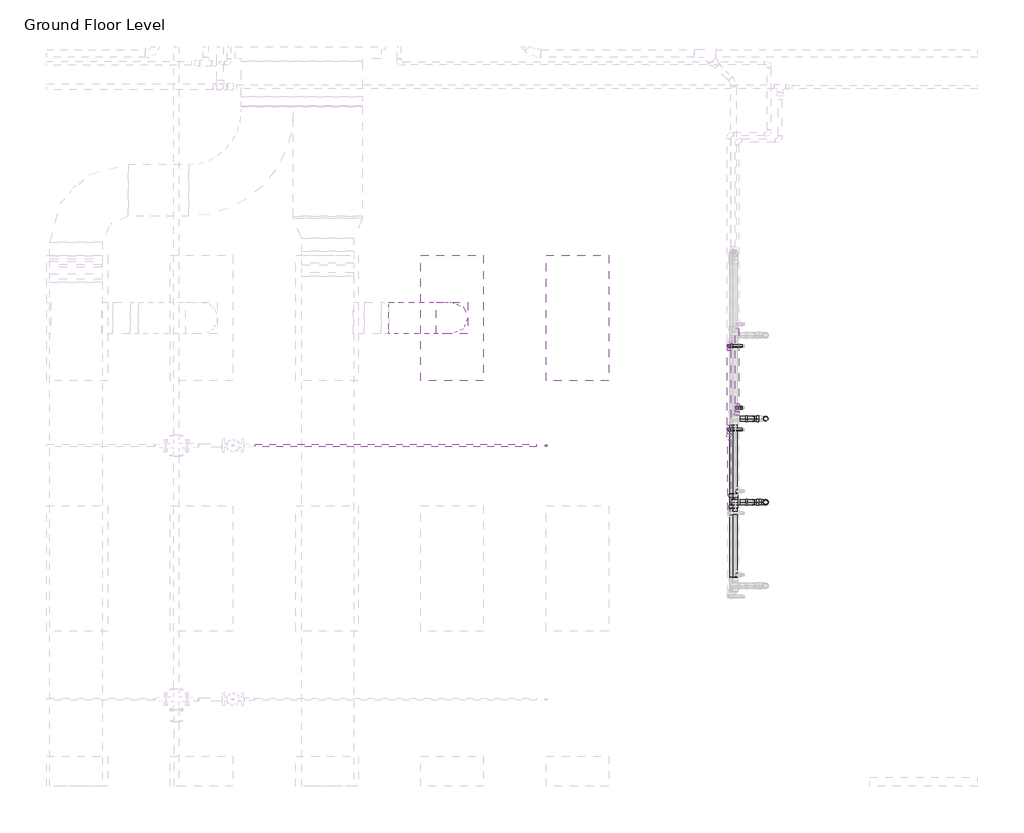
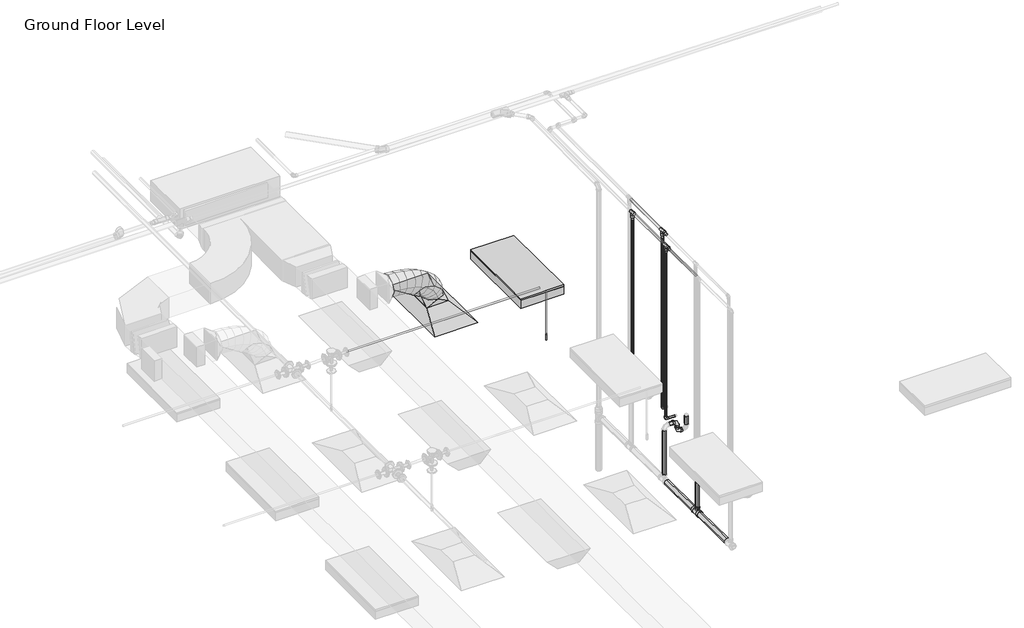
# One storey, part 49 of 66: 23 pipe segments, 18 pipe fittings, 1 air terminal, 1 duct fitting, 1 duct segment, 1 fire suppression terminal, 1 light fixture.
"""IFC4 building model written with IfcOpenShell, lengths in millimetres."""

from ifc_helpers import new_model, si_unit, point, frame, frame_2d, origin, place, context, project, spatial, circle_curve, ellipse_curve, trimmed, segment, composite_curve, outline, extrude, transform, mapped, element, save
from ifc_brep_helpers import plane_surface, cylinder_surface, advanced_brep
from components import m_return_diffuser_1200x600_1200_x_600_face_300_x_300_d1983ef6, m_rectangular_to_round_transition_angle_45_degree_641efff0, m_sprinkler_dry_pendent_hosted_15_mm_dry_pendent_9bda8e11, m_troffer_light_parabolic_rectangular1_0600x1200mm_4_lamp_86473d4a, m_bend_pvc_sch_40_dwv_standard_738aab8b, m_tee_reducing_sanitary_pvc_sch_40_dwv_standard_21d2848c, standard_b266ab3f, standard_72b35c3b, standard_e954f56a, standard_e5aa6446

model = new_model("IFC4")

# Units and contexts
model_context = context("Model", 3, world=origin())
ifc_project = project(units=[si_unit("LENGTHUNIT", "METRE", prefix="MILLI")], contexts=[model_context])

# Site, building, storey
site = spatial("IfcSite", under=ifc_project)
building = spatial("IfcBuilding", under=site)
storey = spatial("IfcBuildingStorey", under=building, Name="Ground Floor Level", Elevation=900.0)

# Air terminal
placement = place(None, origin())
m_return_diffuser_1200x600_1200_x_600_face_300_x_300_shape = m_return_diffuser_1200x600_1200_x_600_face_300_x_300_d1983ef6(model_context)
element("IfcAirTerminal", 1, ObjectType="M_Supply Diffuser 1200x600 : 1200 x 600 Face 300 x 300 Connection", at=placement, inside=storey, context=model_context, shape_type="MappedRepresentation", body=[
    mapped(m_return_diffuser_1200x600_1200_x_600_face_300_x_300_shape, transform((-3337.2327605, 11235.2153534, 3650.0), x_axis=(0.0, 1.0, 0.0), y_axis=(-1.0, 0.0, 0.0), z_axis=(0.0, 0.0, 1.0))),
])

# Duct fitting
m_rectangular_to_round_transition_angle_45_degree_shape = m_rectangular_to_round_transition_angle_45_degree_641efff0(model_context)
element("IfcDuctFitting", 2, ObjectType="M_Rectangular to Round Transition - Angle : 45 Degree", at=placement, inside=storey, context=model_context, shape_type="MappedRepresentation", body=[
    mapped(m_rectangular_to_round_transition_angle_45_degree_shape, transform((-3337.2327605, 11235.2153534, 3751.6), x_axis=(0.0, 0.0, 1.0), y_axis=(-1.0, 0.0, 0.0), z_axis=(0.0, -1.0, 0.0))),
])

# Duct segment
element("IfcDuctSegment", 3, ObjectType="Flex - Round", at=placement, inside=storey, context=model_context, shape_type="AdvancedBrep", body=[
    advanced_brep(
    [(-3187.2327605, 11235.2153534, 3826.6), (-3337.2327605, 11085.2153534, 3826.6), (-3487.2327605, 11235.2153534, 3826.6), (-3337.2327605, 11385.2153534, 3826.6), (-3187.2327605, 11235.2153534, 3882.126257), (-3337.2327605, 11085.2153534, 3857.3050511), (-3487.2327605, 11235.2153534, 3832.4838453), (-3337.2327605, 11385.2153534, 3857.3050511), (-3218.4262882, 11235.2153534, 3973.8000574), (-3353.8942835, 11085.2153534, 3906.2711428), (-3489.3622789, 11235.2153534, 3838.7422282), (-3353.8942835, 11385.2153534, 3906.2711428), (-3288.1608022, 11235.2153534, 4076.4131518), (-3399.7726231, 11085.2153534, 3973.7803017), (-3511.3844439, 11235.2153534, 3871.1474515), (-3399.7726231, 11385.2153534, 3973.7803017), (-3386.0893727, 11235.2153534, 4155.7119505), (-3468.7084348, 11085.2153534, 4029.6018768), (-3551.3274968, 11235.2153534, 3903.4918031), (-3468.7084348, 11385.2153534, 4029.6018768), (-3494.8345319, 11235.2153534, 4212.2274343), (-3554.5423743, 11085.2153534, 4074.2102682), (-3614.2502168, 11235.2153534, 3936.193102), (-3554.5423743, 11385.2153534, 4074.2102682), (-3609.1269227, 11235.2153534, 4252.3116148), (-3651.1150974, 11085.2153534, 4108.0798761), (-3693.1032721, 11235.2153534, 3963.8481373), (-3651.1150974, 11385.2153534, 4108.0798761), (-3724.8585456, 11235.2153534, 4279.3191535), (-3752.2672597, 11085.2153534, 4131.6851006), (-3779.6759737, 11235.2153534, 3984.0510476), (-3752.2672597, 11385.2153534, 4131.6851006), (-3837.5181627, 11235.2153534, 4294.9502122), (-3851.8395168, 11085.2153534, 4145.5003418), (-3866.1608709, 11235.2153534, 3996.0504715), (-3851.8395168, 11385.2153534, 4145.5003418), (-3932.3402653, 11235.2153534, 4300.0), (-3936.3315914, 11085.2153534, 4150.0), (-3940.3229175, 11235.2153534, 4000.0), (-3936.3315914, 11385.2153534, 4150.0), (-3943.6725245, 11235.2153534, 4300.0), (-3943.6725245, 11385.2153534, 4150.0), (-3943.6725245, 11235.2153534, 4000.0), (-3943.6725245, 11085.2153534, 4150.0)],
    [
        (0, 1, circle_curve(frame((-3337.2327605, 11235.2153534, 3826.6), z_axis=(0.0, 0.0, -1.0), x_axis=(1.0, 0.0, 0.0)), 150.0)),
        (1, 2, circle_curve(frame((-3337.2327605, 11235.2153534, 3826.6), z_axis=(0.0, 0.0, -1.0), x_axis=(1.0, 0.0, 0.0)), 150.0)),
        (2, 3, circle_curve(frame((-3337.2327605, 11235.2153534, 3826.6), z_axis=(0.0, 0.0, -1.0), x_axis=(1.0, 0.0, 0.0)), 150.0)),
        (3, 0, circle_curve(frame((-3337.2327605, 11235.2153534, 3826.6), z_axis=(0.0, 0.0, -1.0), x_axis=(1.0, 0.0, 0.0)), 150.0)),
        (0, 4),
        (4, 5, ellipse_curve(frame((-3337.2327605, 11235.2153534, 3857.3050511), z_axis=(0.16325469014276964, 0.0, -0.9865839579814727), x_axis=(-0.9865839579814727, 0.0, -0.16325469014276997)), 152.039772, 150.0)),
        (5, 1),
        (5, 6, ellipse_curve(frame((-3337.2327605, 11235.2153534, 3857.3050511), z_axis=(0.16325469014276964, 0.0, -0.9865839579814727), x_axis=(-0.9865839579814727, 0.0, -0.16325469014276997)), 152.039772, 150.0)),
        (6, 2),
        (6, 7, ellipse_curve(frame((-3337.2327605, 11235.2153534, 3857.3050511), z_axis=(0.16325469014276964, 0.0, -0.9865839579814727), x_axis=(-0.9865839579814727, 0.0, -0.16325469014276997)), 152.039772, 150.0)),
        (7, 3),
        (7, 4, ellipse_curve(frame((-3337.2327605, 11235.2153534, 3857.3050511), z_axis=(0.16325469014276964, 0.0, -0.9865839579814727), x_axis=(-0.9865839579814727, 0.0, -0.16325469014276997)), 152.039772, 150.0)),
        (4, 8),
        (8, 9, ellipse_curve(frame((-3353.8942835, 11235.2153534, 3906.2711428), z_axis=(0.4461293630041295, 0.0, -0.8949684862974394), x_axis=(-0.8949684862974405, 0.0, -0.4461293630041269)), 151.3662184, 150.0)),
        (9, 5),
        (9, 10, ellipse_curve(frame((-3353.8942835, 11235.2153534, 3906.2711428), z_axis=(0.4461293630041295, 0.0, -0.8949684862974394), x_axis=(-0.8949684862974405, 0.0, -0.4461293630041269)), 151.3662184, 150.0)),
        (10, 6),
        (10, 11, ellipse_curve(frame((-3353.8942835, 11235.2153534, 3906.2711428), z_axis=(0.4461293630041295, 0.0, -0.8949684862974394), x_axis=(-0.8949684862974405, 0.0, -0.4461293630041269)), 151.3662184, 150.0)),
        (11, 7),
        (11, 8, ellipse_curve(frame((-3353.8942835, 11235.2153534, 3906.2711428), z_axis=(0.4461293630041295, 0.0, -0.8949684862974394), x_axis=(-0.8949684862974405, 0.0, -0.4461293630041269)), 151.3662184, 150.0)),
        (8, 12),
        (12, 13, ellipse_curve(frame((-3399.7726231, 11235.2153534, 3973.7803017), z_axis=(0.6768778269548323, 0.0, -0.7360953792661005), x_axis=(-0.7360953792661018, 0.0, -0.676877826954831)), 151.6268462, 150.0)),
        (13, 9),
        (13, 14, ellipse_curve(frame((-3399.7726231, 11235.2153534, 3973.7803017), z_axis=(0.6768778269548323, 0.0, -0.7360953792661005), x_axis=(-0.7360953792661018, 0.0, -0.676877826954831)), 151.6268462, 150.0)),
        (14, 10),
        (14, 15, ellipse_curve(frame((-3399.7726231, 11235.2153534, 3973.7803017), z_axis=(0.6768778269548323, 0.0, -0.7360953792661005), x_axis=(-0.7360953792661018, 0.0, -0.676877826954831)), 151.6268462, 150.0)),
        (15, 11),
        (15, 12, ellipse_curve(frame((-3399.7726231, 11235.2153534, 3973.7803017), z_axis=(0.6768778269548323, 0.0, -0.7360953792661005), x_axis=(-0.7360953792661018, 0.0, -0.676877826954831)), 151.6268462, 150.0)),
        (12, 16),
        (16, 17, ellipse_curve(frame((-3468.7084348, 11235.2153534, 4029.6018768), z_axis=(0.8364756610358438, 0.0, -0.5480040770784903), x_axis=(-0.5480040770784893, 0.0, -0.8364756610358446)), 150.7635901, 150.0)),
        (17, 13),
        (17, 18, ellipse_curve(frame((-3468.7084348, 11235.2153534, 4029.6018768), z_axis=(0.8364756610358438, 0.0, -0.5480040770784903), x_axis=(-0.5480040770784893, 0.0, -0.8364756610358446)), 150.7635901, 150.0)),
        (18, 14),
        (18, 19, ellipse_curve(frame((-3468.7084348, 11235.2153534, 4029.6018768), z_axis=(0.8364756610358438, 0.0, -0.5480040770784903), x_axis=(-0.5480040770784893, 0.0, -0.8364756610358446)), 150.7635901, 150.0)),
        (19, 15),
        (19, 16, ellipse_curve(frame((-3468.7084348, 11235.2153534, 4029.6018768), z_axis=(0.8364756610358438, 0.0, -0.5480040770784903), x_axis=(-0.5480040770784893, 0.0, -0.8364756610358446)), 150.7635901, 150.0)),
        (16, 20),
        (20, 21, ellipse_curve(frame((-3554.5423743, 11235.2153534, 4074.2102682), z_axis=(0.9177970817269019, 0.0, -0.3970497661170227), x_axis=(-0.39704976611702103, 0.0, -0.9177970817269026)), 150.3787372, 150.0)),
        (21, 17),
        (21, 22, ellipse_curve(frame((-3554.5423743, 11235.2153534, 4074.2102682), z_axis=(0.9177970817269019, 0.0, -0.3970497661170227), x_axis=(-0.39704976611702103, 0.0, -0.9177970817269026)), 150.3787372, 150.0)),
        (22, 18),
        (22, 23, ellipse_curve(frame((-3554.5423743, 11235.2153534, 4074.2102682), z_axis=(0.9177970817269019, 0.0, -0.3970497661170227), x_axis=(-0.39704976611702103, 0.0, -0.9177970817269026)), 150.3787372, 150.0)),
        (23, 19),
        (23, 20, ellipse_curve(frame((-3554.5423743, 11235.2153534, 4074.2102682), z_axis=(0.9177970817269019, 0.0, -0.3970497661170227), x_axis=(-0.39704976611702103, 0.0, -0.9177970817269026)), 150.3787372, 150.0)),
        (20, 24),
        (24, 25, ellipse_curve(frame((-3651.1150974, 11235.2153534, 4108.0798761), z_axis=(0.9601419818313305, 0.0, -0.2795127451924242), x_axis=(-0.2795127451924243, 0.0, -0.9601419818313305)), 150.2191774, 150.0)),
        (25, 21),
        (25, 26, ellipse_curve(frame((-3651.1150974, 11235.2153534, 4108.0798761), z_axis=(0.9601419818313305, 0.0, -0.2795127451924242), x_axis=(-0.2795127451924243, 0.0, -0.9601419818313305)), 150.2191774, 150.0)),
        (26, 22),
        (26, 27, ellipse_curve(frame((-3651.1150974, 11235.2153534, 4108.0798761), z_axis=(0.9601419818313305, 0.0, -0.2795127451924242), x_axis=(-0.2795127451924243, 0.0, -0.9601419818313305)), 150.2191774, 150.0)),
        (27, 23),
        (27, 24, ellipse_curve(frame((-3651.1150974, 11235.2153534, 4108.0798761), z_axis=(0.9601419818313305, 0.0, -0.2795127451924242), x_axis=(-0.2795127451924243, 0.0, -0.9601419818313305)), 150.2191774, 150.0)),
        (24, 28),
        (28, 29, ellipse_curve(frame((-3752.2672597, 11235.2153534, 4131.6851006), z_axis=(0.9831995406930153, 0.0, -0.18253400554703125), x_axis=(-0.18253400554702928, 0.0, -0.9831995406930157)), 150.1567554, 150.0)),
        (29, 25),
        (29, 30, ellipse_curve(frame((-3752.2672597, 11235.2153534, 4131.6851006), z_axis=(0.9831995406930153, 0.0, -0.18253400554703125), x_axis=(-0.18253400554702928, 0.0, -0.9831995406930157)), 150.1567554, 150.0)),
        (30, 26),
        (30, 31, ellipse_curve(frame((-3752.2672597, 11235.2153534, 4131.6851006), z_axis=(0.9831995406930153, 0.0, -0.18253400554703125), x_axis=(-0.18253400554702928, 0.0, -0.9831995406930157)), 150.1567554, 150.0)),
        (31, 27),
        (31, 28, ellipse_curve(frame((-3752.2672597, 11235.2153534, 4131.6851006), z_axis=(0.9831995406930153, 0.0, -0.18253400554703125), x_axis=(-0.18253400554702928, 0.0, -0.9831995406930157)), 150.1567554, 150.0)),
        (28, 32),
        (32, 33, ellipse_curve(frame((-3851.8395168, 11235.2153534, 4145.5003418), z_axis=(0.9954399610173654, 0.0, -0.09539016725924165), x_axis=(-0.09539016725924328, 0.0, -0.9954399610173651)), 150.1344895, 150.0)),
        (33, 29),
        (33, 34, ellipse_curve(frame((-3851.8395168, 11235.2153534, 4145.5003418), z_axis=(0.9954399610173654, 0.0, -0.09539016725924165), x_axis=(-0.09539016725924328, 0.0, -0.9954399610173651)), 150.1344895, 150.0)),
        (34, 30),
        (34, 35, ellipse_curve(frame((-3851.8395168, 11235.2153534, 4145.5003418), z_axis=(0.9954399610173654, 0.0, -0.09539016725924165), x_axis=(-0.09539016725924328, 0.0, -0.9954399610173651)), 150.1344895, 150.0)),
        (35, 31),
        (35, 32, ellipse_curve(frame((-3851.8395168, 11235.2153534, 4145.5003418), z_axis=(0.9954399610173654, 0.0, -0.09539016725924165), x_axis=(-0.09539016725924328, 0.0, -0.9954399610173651)), 150.1344895, 150.0)),
        (32, 36),
        (36, 37, ellipse_curve(frame((-3936.3315914, 11235.2153534, 4150.0), z_axis=(0.9996461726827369, 0.0, -0.026599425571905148), x_axis=(-0.026599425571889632, 0.0, -0.9996461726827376)), 150.0530929, 150.0)),
        (37, 33),
        (37, 38, ellipse_curve(frame((-3936.3315914, 11235.2153534, 4150.0), z_axis=(0.9996461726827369, 0.0, -0.026599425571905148), x_axis=(-0.026599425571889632, 0.0, -0.9996461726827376)), 150.0530929, 150.0)),
        (38, 34),
        (38, 39, ellipse_curve(frame((-3936.3315914, 11235.2153534, 4150.0), z_axis=(0.9996461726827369, 0.0, -0.026599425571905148), x_axis=(-0.026599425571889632, 0.0, -0.9996461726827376)), 150.0530929, 150.0)),
        (39, 35),
        (39, 36, ellipse_curve(frame((-3936.3315914, 11235.2153534, 4150.0), z_axis=(0.9996461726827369, 0.0, -0.026599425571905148), x_axis=(-0.026599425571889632, 0.0, -0.9996461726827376)), 150.0530929, 150.0)),
        (40, 41, circle_curve(frame((-3943.6725245, 11235.2153534, 4150.0), z_axis=(-1.0, 0.0, 0.0), x_axis=(0.0, 0.0, 1.0)), 150.0)),
        (41, 42, circle_curve(frame((-3943.6725245, 11235.2153534, 4150.0), z_axis=(-1.0, 0.0, 0.0), x_axis=(0.0, 0.0, 1.0)), 150.0)),
        (42, 43, circle_curve(frame((-3943.6725245, 11235.2153534, 4150.0), z_axis=(-1.0, 0.0, 0.0), x_axis=(0.0, 0.0, 1.0)), 150.0)),
        (43, 40, circle_curve(frame((-3943.6725245, 11235.2153534, 4150.0), z_axis=(-1.0, 0.0, 0.0), x_axis=(0.0, 0.0, 1.0)), 150.0)),
        (36, 40),
        (43, 37),
        (42, 38),
        (41, 39),
    ],
    [
        plane_surface(frame((-3337.2327605, 11085.2153534, 3826.6), z_axis=(0.0, 0.0, -1.0), x_axis=(1.0, 0.0, 0.0))),
        cylinder_surface(frame((-3337.2327605, 11235.2153534, 3826.6), z_axis=(0.0, 0.0, -1.0), x_axis=(1.0, 0.0, 0.0)), 150.0),
        cylinder_surface(frame((-3337.2327605, 11235.2153534, 3857.3050511), z_axis=(0.3221289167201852, 0.0, -0.9466958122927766), x_axis=(0.9466958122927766, 0.0, 0.3221289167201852)), 150.0),
        cylinder_surface(frame((-3353.8942835, 11235.2153534, 3906.2711428), z_axis=(0.5620763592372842, 0.0, -0.827085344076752), x_axis=(0.827085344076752, 0.0, 0.5620763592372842)), 150.0),
        cylinder_surface(frame((-3399.7726231, 11235.2153534, 3973.7803017), z_axis=(0.7771544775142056, 0.0, -0.6293098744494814), x_axis=(0.6293098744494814, 0.0, 0.7771544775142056)), 150.0),
        cylinder_surface(frame((-3468.7084348, 11235.2153534, 4029.6018768), z_axis=(0.8873236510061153, 0.0, -0.4611471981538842), x_axis=(0.4611471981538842, 0.0, 0.8873236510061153)), 150.0),
        cylinder_surface(frame((-3554.5423743, 11235.2153534, 4074.2102682), z_axis=(0.9436474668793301, 0.0, -0.3309523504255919), x_axis=(0.3309523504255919, 0.0, 0.9436474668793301)), 150.0),
        cylinder_surface(frame((-3651.1150974, 11235.2153534, 4108.0798761), z_axis=(0.9738347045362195, 0.0, -0.22725749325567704), x_axis=(0.22725749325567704, 0.0, 0.9738347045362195)), 150.0),
        cylinder_surface(frame((-3752.2672597, 11235.2153534, 4131.6851006), z_axis=(0.9905115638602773, 0.0, -0.1374294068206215), x_axis=(0.1374294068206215, 0.0, 0.9905115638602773)), 150.0),
        cylinder_surface(frame((-3851.8395168, 11235.2153534, 4145.5003418), z_axis=(0.9985849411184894, 0.0, -0.05318002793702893), x_axis=(0.05318002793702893, 0.0, 0.9985849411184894)), 150.0),
        plane_surface(frame((-3943.6725245, 11235.2153534, 4000.0), z_axis=(-1.0, 0.0, 0.0), x_axis=(0.0, -1.0, 0.0))),
        cylinder_surface(frame((-3936.3315914, 11235.2153534, 4150.0), z_axis=(1.0, 0.0, 0.0), x_axis=(0.0, 0.0, 1.0)), 150.0),
    ],
    [
        (0, [[1, 2, 3, 4]]),
        (1, [[-1, 5, 6, 7]]),
        (1, [[-2, -7, 8, 9]]),
        (1, [[-3, -9, 10, 11]]),
        (1, [[-4, -11, 12, -5]]),
        (2, [[-6, 13, 14, 15]]),
        (2, [[-8, -15, 16, 17]]),
        (2, [[-10, -17, 18, 19]]),
        (2, [[-12, -19, 20, -13]]),
        (3, [[-14, 21, 22, 23]]),
        (3, [[-16, -23, 24, 25]]),
        (3, [[-18, -25, 26, 27]]),
        (3, [[-20, -27, 28, -21]]),
        (4, [[-22, 29, 30, 31]]),
        (4, [[-24, -31, 32, 33]]),
        (4, [[-26, -33, 34, 35]]),
        (4, [[-28, -35, 36, -29]]),
        (5, [[-30, 37, 38, 39]]),
        (5, [[-32, -39, 40, 41]]),
        (5, [[-34, -41, 42, 43]]),
        (5, [[-36, -43, 44, -37]]),
        (6, [[-38, 45, 46, 47]]),
        (6, [[-40, -47, 48, 49]]),
        (6, [[-42, -49, 50, 51]]),
        (6, [[-44, -51, 52, -45]]),
        (7, [[-46, 53, 54, 55]]),
        (7, [[-48, -55, 56, 57]]),
        (7, [[-50, -57, 58, 59]]),
        (7, [[-52, -59, 60, -53]]),
        (8, [[-54, 61, 62, 63]]),
        (8, [[-56, -63, 64, 65]]),
        (8, [[-58, -65, 66, 67]]),
        (8, [[-60, -67, 68, -61]]),
        (9, [[-62, 69, 70, 71]]),
        (9, [[-64, -71, 72, 73]]),
        (9, [[-66, -73, 74, 75]]),
        (9, [[-68, -75, 76, -69]]),
        (10, [[77, 78, 79, 80]]),
        (11, [[-70, 81, -80, 82]]),
        (11, [[-72, -82, -79, 83]]),
        (11, [[-74, -83, -78, 84]]),
        (11, [[-76, -84, -77, -81]]),
    ],
),
])

# Fire suppression terminal
m_sprinkler_dry_pendent_hosted_15_mm_dry_pendent_shape = m_sprinkler_dry_pendent_hosted_15_mm_dry_pendent_9bda8e11(model_context)
element("IfcFireSuppressionTerminal", 4, ObjectType="M_Sprinkler - Dry - Pendent - Hosted : 15 mm Dry Pendent", at=placement, inside=storey, context=model_context, shape_type="MappedRepresentation", body=[
    mapped(m_sprinkler_dry_pendent_hosted_15_mm_dry_pendent_shape, transform((-2437.2327605, 10013.008259, 3650.0), x_axis=(1.0, 0.0, 0.0), y_axis=(0.0, -1.0, 0.0), z_axis=(0.0, 0.0, -1.0))),
])

# Light fixture
m_troffer_light_parabolic_rectangular1_0600x1200mm_4_lamp_shape = m_troffer_light_parabolic_rectangular1_0600x1200mm_4_lamp_86473d4a(model_context)
element("IfcLightFixture", 5, ObjectType="M_Troffer Light - Parabolic Rectangular1 : 0600x1200mm(4 Lamp) - 277V 2", at=placement, inside=storey, context=model_context, shape_type="MappedRepresentation", body=[
    mapped(m_troffer_light_parabolic_rectangular1_0600x1200mm_4_lamp_shape, transform((-2196.6986926, 11253.918855, 3650.0), x_axis=(0.0, 1.0, 0.0), y_axis=(-1.0, 0.0, 0.0), z_axis=(0.0, 0.0, 1.0))),
])

# Pipe fittings
m_bend_pvc_sch_40_dwv_standard_shape = m_bend_pvc_sch_40_dwv_standard_738aab8b(model_context)
element("IfcPipeFitting", 6, ObjectType="M_Bend - PVC - Sch 40 - DWV : Standard", at=placement, inside=storey, context=model_context, shape_type="MappedRepresentation", body=[
    mapped(m_bend_pvc_sch_40_dwv_standard_shape, transform((-463.6645494, 9471.1979139, 1370.0), x_axis=(-1.0, 0.0, 0.0), y_axis=(0.0, 0.0, 1.0), z_axis=(0.0, 1.0, 0.0))),
])
element("IfcPipeFitting", 7, ObjectType="M_Bend - PVC - Sch 40 - DWV : Standard", at=placement, inside=storey, context=model_context, shape_type="MappedRepresentation", body=[
    mapped(m_bend_pvc_sch_40_dwv_standard_shape, transform((-463.6645494, 9471.1979139, 1510.0), x_axis=(0.0, 0.0, 1.0), y_axis=(-1.0, 0.0, 0.0), z_axis=(0.0, -1.0, 0.0))),
])
element("IfcPipeFitting", 8, ObjectType="M_Bend - PVC - Sch 40 - DWV : Standard", at=placement, inside=storey, context=model_context, shape_type="MappedRepresentation", body=[
    mapped(m_bend_pvc_sch_40_dwv_standard_shape, transform((-463.6645494, 10271.1979139, 1370.0), x_axis=(-1.0, 0.0, 0.0), y_axis=(0.0, 0.0, 1.0), z_axis=(0.0, 1.0, 0.0))),
])
element("IfcPipeFitting", 9, ObjectType="M_Bend - PVC - Sch 40 - DWV : Standard", at=placement, inside=storey, context=model_context, shape_type="MappedRepresentation", body=[
    mapped(m_bend_pvc_sch_40_dwv_standard_shape, transform((-463.6645494, 10271.1979139, 1510.0), x_axis=(0.0, 0.0, 1.0), y_axis=(-1.0, 0.0, 0.0), z_axis=(0.0, -1.0, 0.0))),
])
element("IfcPipeFitting", 10, ObjectType="M_Bend - PVC - Sch 40 - DWV : Standard", at=placement, inside=storey, context=model_context, shape_type="MappedRepresentation", body=[
    mapped(m_bend_pvc_sch_40_dwv_standard_shape, transform((-333.6645494, 9471.1979139, 1370.0), x_axis=(1.0, 0.0, 0.0), y_axis=(0.0, 0.0, 1.0), z_axis=(0.0, -1.0, 0.0))),
])
element("IfcPipeFitting", 11, ObjectType="M_Bend - PVC - Sch 40 - DWV : Standard", at=placement, inside=storey, context=model_context, shape_type="MappedRepresentation", body=[
    mapped(m_bend_pvc_sch_40_dwv_standard_shape, transform((-642.2301761, 9471.1979139, 1510.0), x_axis=(-1.0, 0.0, 0.0), y_axis=(0.0, 0.0, -1.0), z_axis=(0.0, -1.0, 0.0))),
])
m_tee_reducing_sanitary_pvc_sch_40_dwv_standard_shape = m_tee_reducing_sanitary_pvc_sch_40_dwv_standard_21d2848c(model_context)
element("IfcPipeFitting", 12, ObjectType="M_Tee Reducing Sanitary - PVC - Sch 40 - DWV : Standard", at=placement, inside=storey, context=model_context, shape_type="MappedRepresentation", body=[
    mapped(m_tee_reducing_sanitary_pvc_sch_40_dwv_standard_shape, transform((-642.2301761, 9471.1979139, 719.098886), x_axis=(0.0, -0.9999500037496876, 0.009999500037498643), y_axis=(0.0, -0.009999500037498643, -0.9999500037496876), z_axis=(1.0, 0.0, 0.0))),
])
standard_shape = standard_b266ab3f(model_context)
element("IfcPipeFitting", 13, ObjectType="M_Elbow - CPVC - Sch 40 : Standard", at=placement, inside=storey, context=model_context, shape_type="MappedRepresentation", body=[
    mapped(standard_shape, transform((-607.2327605, 10375.5128345, 1690.0), x_axis=(0.0, 0.0, -1.0), y_axis=(1.0, 0.0, 0.0), z_axis=(0.0, -1.0, 0.0))),
])
element("IfcPipeFitting", 14, ObjectType="M_Elbow - CPVC - Sch 40 : Standard", at=placement, inside=storey, context=model_context, shape_type="MappedRepresentation", body=[
    mapped(standard_shape, transform((-684.0671674, 10166.8829933, 1690.0), x_axis=(-1.0, 0.0, 0.0), y_axis=(0.0, 0.0, 1.0), z_axis=(0.0, 1.0, 0.0))),
])
element("IfcPipeFitting", 15, ObjectType="M_Elbow - CPVC - Sch 40 : Standard", at=placement, inside=storey, context=model_context, shape_type="MappedRepresentation", body=[
    mapped(standard_shape, transform((-684.0671674, 10966.8829933, 1690.0), x_axis=(-1.0, 0.0, 0.0), y_axis=(0.0, 0.0, 1.0), z_axis=(0.0, 1.0, 0.0))),
])
standard_2_shape = standard_72b35c3b(model_context)
element("IfcPipeFitting", 16, ObjectType="M_Tee - CPVC - Sch 40 : Standard", at=placement, inside=storey, context=model_context, shape_type="MappedRepresentation", body=[
    mapped(standard_2_shape, transform((-607.2327605, 10375.5128345, 4315.0), x_axis=(0.0, 1.0, 0.0), y_axis=(0.0, 0.0, 1.0), z_axis=(1.0, 0.0, 0.0))),
])
element("IfcPipeFitting", 17, ObjectType="M_Tee - CPVC - Sch 40 : Standard", at=placement, inside=storey, context=model_context, shape_type="MappedRepresentation", body=[
    mapped(standard_2_shape, transform((-684.0671674, 10166.8829933, 4250.0), x_axis=(0.0, -1.0, 0.0), y_axis=(0.0, 0.0, 1.0), z_axis=(-1.0, 0.0, 0.0))),
])
element("IfcPipeFitting", 18, ObjectType="M_Tee - CPVC - Sch 40 : Standard", at=placement, inside=storey, context=model_context, shape_type="MappedRepresentation", body=[
    mapped(standard_2_shape, transform((-684.0671674, 10966.8829933, 4250.0), x_axis=(0.0, -1.0, 0.0), y_axis=(0.0, 0.0, 1.0), z_axis=(-1.0, 0.0, 0.0))),
])
standard_3_shape = standard_e954f56a(model_context)
element("IfcPipeFitting", 19, ObjectType="M_Coupling Reducing - CPVC - Sch 40 : Standard", at=placement, inside=storey, context=model_context, shape_type="MappedRepresentation", body=[
    mapped(standard_3_shape, transform((-607.2327605, 10335.8126345, 4315.0), x_axis=(0.0, -1.0, 0.0), y_axis=(1.0, 0.0, 0.0), z_axis=(0.0, 0.0, 1.0))),
])
element("IfcPipeFitting", 20, ObjectType="M_Coupling Reducing - CPVC - Sch 40 : Standard", at=placement, inside=storey, context=model_context, shape_type="MappedRepresentation", body=[
    mapped(standard_3_shape, transform((-607.2327605, 10375.5128345, 4275.2998), x_axis=(0.0, 0.0, -1.0), y_axis=(0.0, -1.0, 0.0), z_axis=(-1.0, 0.0, 0.0))),
])
element("IfcPipeFitting", 21, ObjectType="M_Coupling Reducing - CPVC - Sch 40 : Standard", at=placement, inside=storey, context=model_context, shape_type="MappedRepresentation", body=[
    mapped(standard_3_shape, transform((-684.0671674, 10166.8829933, 4210.2998), x_axis=(0.0, 0.0, -1.0), y_axis=(-1.0, 0.0, 0.0), z_axis=(0.0, 1.0, 0.0))),
])
element("IfcPipeFitting", 22, ObjectType="M_Coupling Reducing - CPVC - Sch 40 : Standard", at=placement, inside=storey, context=model_context, shape_type="MappedRepresentation", body=[
    mapped(standard_3_shape, transform((-684.0671674, 10966.8829933, 4210.2998), x_axis=(0.0, 0.0, -1.0), y_axis=(-1.0, 0.0, 0.0), z_axis=(0.0, 1.0, 0.0))),
])
standard_4_shape = standard_e5aa6446(model_context)
element("IfcPipeFitting", 23, ObjectType="M_Coupling Reducing - CPVC - Sch 40 : Standard", at=placement, inside=storey, context=model_context, shape_type="MappedRepresentation", body=[
    mapped(standard_4_shape, transform((-684.0671674, 10127.1827933, 4250.0), x_axis=(0.0, -1.0, 0.0), y_axis=(1.0, 0.0, 0.0), z_axis=(0.0, 0.0, 1.0))),
])

# Pipe segments
element("IfcPipeSegment", 24, ObjectType="CPVC", at=placement, inside=storey, context=model_context, shape_type="SweptSolid", body=[
    extrude(outline(composite_curve([segment(trimmed(circle_curve(frame_2d((10375.5128345, 1690.0)), 13.335), [point((10362.1778345, 1690.0))], [point((10375.5128345, 1703.335))], False, "CARTESIAN"), True, "CONTINUOUS"), segment(trimmed(circle_curve(frame_2d((10375.5128345, 1690.0)), 13.335), [point((10375.5128345, 1703.335))], [point((10388.8478345, 1690.0))], False, "CARTESIAN"), True, "CONTINUOUS"), segment(trimmed(circle_curve(frame_2d((10375.5128345, 1690.0)), 13.335), [point((10388.8478345, 1690.0))], [point((10375.5128345, 1676.665))], False, "CARTESIAN"), True, "CONTINUOUS"), segment(trimmed(circle_curve(frame_2d((10375.5128345, 1690.0)), 13.335), [point((10375.5128345, 1676.665))], [point((10362.1778345, 1690.0))], False, "CARTESIAN"), True, "CONTINUOUS")], self_intersect=False)), frame((-571.9077105, 0.0, 0.0), z_axis=(1.0, 0.0, 0.0), x_axis=(0.0, 1.0, 0.0)), (0.0, 0.0, 1.0), 14.67495),
])
element("IfcPipeSegment", 25, ObjectType="CPVC", at=placement, inside=storey, context=model_context, shape_type="SweptSolid", body=[
    extrude(outline(composite_curve([segment(trimmed(circle_curve(frame_2d((-607.2327605, 10375.5128345)), 13.335), [point((-593.8977605, 10375.5128345))], [point((-607.2327605, 10362.1778345))], False, "CARTESIAN"), True, "CONTINUOUS"), segment(trimmed(circle_curve(frame_2d((-607.2327605, 10375.5128345)), 13.335), [point((-607.2327605, 10362.1778345))], [point((-620.5677605, 10375.5128345))], False, "CARTESIAN"), True, "CONTINUOUS"), segment(trimmed(circle_curve(frame_2d((-607.2327605, 10375.5128345)), 13.335), [point((-620.5677605, 10375.5128345))], [point((-607.2327605, 10388.8478345))], False, "CARTESIAN"), True, "CONTINUOUS"), segment(trimmed(circle_curve(frame_2d((-607.2327605, 10375.5128345)), 13.335), [point((-607.2327605, 10388.8478345))], [point((-593.8977605, 10375.5128345))], False, "CARTESIAN"), True, "CONTINUOUS")], self_intersect=False)), frame((0.0, 0.0, 1725.32505), z_axis=(0.0, 0.0, 1.0), x_axis=(1.0, 0.0, 0.0)), (0.0, 0.0, 1.0), 2492.82475),
])
element("IfcPipeSegment", 26, ObjectType="CPVC", at=placement, inside=storey, context=model_context, shape_type="SweptSolid", body=[
    extrude(outline(composite_curve([segment(trimmed(circle_curve(frame_2d((4315.0, -607.2327605)), 16.7005), [point((4315.0, -623.9332605))], [point((4298.2995, -607.2327605))], False, "CARTESIAN"), True, "CONTINUOUS"), segment(trimmed(circle_curve(frame_2d((4315.0, -607.2327605)), 16.7005), [point((4298.2995, -607.2327605))], [point((4315.0, -590.5322605))], False, "CARTESIAN"), True, "CONTINUOUS"), segment(trimmed(circle_curve(frame_2d((4315.0, -607.2327605)), 16.7005), [point((4315.0, -590.5322605))], [point((4331.7005, -607.2327605))], False, "CARTESIAN"), True, "CONTINUOUS"), segment(trimmed(circle_curve(frame_2d((4315.0, -607.2327605)), 16.7005), [point((4331.7005, -607.2327605))], [point((4315.0, -623.9332605))], False, "CARTESIAN"), True, "CONTINUOUS")], self_intersect=False)), frame((0.0, 10415.2130345, 0.0), z_axis=(0.0, 1.0, 0.0), x_axis=(0.0, 0.0, 1.0)), (0.0, 0.0, 1.0), 720.5996),
])
element("IfcPipeSegment", 27, ObjectType="CPVC", at=placement, inside=storey, context=model_context, shape_type="SweptSolid", body=[
    extrude(outline(composite_curve([segment(trimmed(circle_curve(frame_2d((10166.8829933, 1690.0)), 13.335), [point((10180.2179933, 1690.0))], [point((10166.8829933, 1676.665))], False, "CARTESIAN"), True, "CONTINUOUS"), segment(trimmed(circle_curve(frame_2d((10166.8829933, 1690.0)), 13.335), [point((10166.8829933, 1676.665))], [point((10153.5479933, 1690.0))], False, "CARTESIAN"), True, "CONTINUOUS"), segment(trimmed(circle_curve(frame_2d((10166.8829933, 1690.0)), 13.335), [point((10153.5479933, 1690.0))], [point((10166.8829933, 1703.335))], False, "CARTESIAN"), True, "CONTINUOUS"), segment(trimmed(circle_curve(frame_2d((10166.8829933, 1690.0)), 13.335), [point((10166.8829933, 1703.335))], [point((10180.2179933, 1690.0))], False, "CARTESIAN"), True, "CONTINUOUS")], self_intersect=False)), frame((-648.7421174, 0.0, 0.0), z_axis=(1.0, 0.0, 0.0), x_axis=(0.0, 1.0, 0.0)), (0.0, 0.0, 1.0), 91.5093569),
])
element("IfcPipeSegment", 28, ObjectType="CPVC", at=placement, inside=storey, context=model_context, shape_type="SweptSolid", body=[
    extrude(outline(composite_curve([segment(trimmed(circle_curve(frame_2d((-684.0671674, 10166.8829933)), 13.335), [point((-697.4021674, 10166.8829933))], [point((-684.0671674, 10180.2179933))], False, "CARTESIAN"), True, "CONTINUOUS"), segment(trimmed(circle_curve(frame_2d((-684.0671674, 10166.8829933)), 13.335), [point((-684.0671674, 10180.2179933))], [point((-670.7321674, 10166.8829933))], False, "CARTESIAN"), True, "CONTINUOUS"), segment(trimmed(circle_curve(frame_2d((-684.0671674, 10166.8829933)), 13.335), [point((-670.7321674, 10166.8829933))], [point((-684.0671674, 10153.5479933))], False, "CARTESIAN"), True, "CONTINUOUS"), segment(trimmed(circle_curve(frame_2d((-684.0671674, 10166.8829933)), 13.335), [point((-684.0671674, 10153.5479933))], [point((-697.4021674, 10166.8829933))], False, "CARTESIAN"), True, "CONTINUOUS")], self_intersect=False)), frame((0.0, 0.0, 1725.32505), z_axis=(0.0, 0.0, 1.0), x_axis=(1.0, 0.0, 0.0)), (0.0, 0.0, 1.0), 2427.82475),
])
element("IfcPipeSegment", 29, ObjectType="CPVC", at=placement, inside=storey, context=model_context, shape_type="SweptSolid", body=[
    extrude(outline(composite_curve([segment(trimmed(circle_curve(frame_2d((4250.0, -684.0671674)), 13.335), [point((4250.0, -670.7321674))], [point((4263.335, -684.0671674))], False, "CARTESIAN"), True, "CONTINUOUS"), segment(trimmed(circle_curve(frame_2d((4250.0, -684.0671674)), 13.335), [point((4263.335, -684.0671674))], [point((4250.0, -697.4021674))], False, "CARTESIAN"), True, "CONTINUOUS"), segment(trimmed(circle_curve(frame_2d((4250.0, -684.0671674)), 13.335), [point((4250.0, -697.4021674))], [point((4236.665, -684.0671674))], False, "CARTESIAN"), True, "CONTINUOUS"), segment(trimmed(circle_curve(frame_2d((4250.0, -684.0671674)), 13.335), [point((4236.665, -684.0671674))], [point((4250.0, -670.7321674))], False, "CARTESIAN"), True, "CONTINUOUS")], self_intersect=False)), frame((0.0, 9399.4203933, 0.0), z_axis=(0.0, 1.0, 0.0), x_axis=(0.0, 0.0, 1.0)), (0.0, 0.0, 1.0), 670.6124),
])
element("IfcPipeSegment", 30, ObjectType="CPVC", at=placement, inside=storey, context=model_context, shape_type="SweptSolid", body=[
    extrude(outline(composite_curve([segment(trimmed(circle_curve(frame_2d((10966.8829933, 1690.0)), 13.335), [point((10980.2179933, 1690.0))], [point((10966.8829933, 1676.665))], False, "CARTESIAN"), True, "CONTINUOUS"), segment(trimmed(circle_curve(frame_2d((10966.8829933, 1690.0)), 13.335), [point((10966.8829933, 1676.665))], [point((10953.5479933, 1690.0))], False, "CARTESIAN"), True, "CONTINUOUS"), segment(trimmed(circle_curve(frame_2d((10966.8829933, 1690.0)), 13.335), [point((10953.5479933, 1690.0))], [point((10966.8829933, 1703.335))], False, "CARTESIAN"), True, "CONTINUOUS"), segment(trimmed(circle_curve(frame_2d((10966.8829933, 1690.0)), 13.335), [point((10966.8829933, 1703.335))], [point((10980.2179933, 1690.0))], False, "CARTESIAN"), True, "CONTINUOUS")], self_intersect=False)), frame((-648.7421174, 0.0, 0.0), z_axis=(1.0, 0.0, 0.0), x_axis=(0.0, 1.0, 0.0)), (0.0, 0.0, 1.0), 91.5093569),
])
element("IfcPipeSegment", 31, ObjectType="CPVC", at=placement, inside=storey, context=model_context, shape_type="SweptSolid", body=[
    extrude(outline(composite_curve([segment(trimmed(circle_curve(frame_2d((-684.0671674, 10966.8829933)), 13.335), [point((-697.4021674, 10966.8829933))], [point((-684.0671674, 10980.2179933))], False, "CARTESIAN"), True, "CONTINUOUS"), segment(trimmed(circle_curve(frame_2d((-684.0671674, 10966.8829933)), 13.335), [point((-684.0671674, 10980.2179933))], [point((-670.7321674, 10966.8829933))], False, "CARTESIAN"), True, "CONTINUOUS"), segment(trimmed(circle_curve(frame_2d((-684.0671674, 10966.8829933)), 13.335), [point((-670.7321674, 10966.8829933))], [point((-684.0671674, 10953.5479933))], False, "CARTESIAN"), True, "CONTINUOUS"), segment(trimmed(circle_curve(frame_2d((-684.0671674, 10966.8829933)), 13.335), [point((-684.0671674, 10953.5479933))], [point((-697.4021674, 10966.8829933))], False, "CARTESIAN"), True, "CONTINUOUS")], self_intersect=False)), frame((0.0, 0.0, 1725.32505), z_axis=(0.0, 0.0, 1.0), x_axis=(1.0, 0.0, 0.0)), (0.0, 0.0, 1.0), 2427.82475),
])
element("IfcPipeSegment", 32, ObjectType="CPVC", at=placement, inside=storey, context=model_context, shape_type="SweptSolid", body=[
    extrude(outline(composite_curve([segment(trimmed(circle_curve(frame_2d((4250.0, -684.0671674)), 16.7005), [point((4250.0, -667.3666674))], [point((4266.7005, -684.0671674))], False, "CARTESIAN"), True, "CONTINUOUS"), segment(trimmed(circle_curve(frame_2d((4250.0, -684.0671674)), 16.7005), [point((4266.7005, -684.0671674))], [point((4250.0, -700.7676674))], False, "CARTESIAN"), True, "CONTINUOUS"), segment(trimmed(circle_curve(frame_2d((4250.0, -684.0671674)), 16.7005), [point((4250.0, -700.7676674))], [point((4233.2995, -684.0671674))], False, "CARTESIAN"), True, "CONTINUOUS"), segment(trimmed(circle_curve(frame_2d((4250.0, -684.0671674)), 16.7005), [point((4233.2995, -684.0671674))], [point((4250.0, -667.3666674))], False, "CARTESIAN"), True, "CONTINUOUS")], self_intersect=False)), frame((0.0, 10206.5831933, 0.0), z_axis=(0.0, 1.0, 0.0), x_axis=(0.0, 0.0, 1.0)), (0.0, 0.0, 1.0), 720.5996),
])
element("IfcPipeSegment", 33, ObjectType="PVC - DWV", at=placement, inside=storey, context=model_context, shape_type="SweptSolid", body=[
    extrude(outline(composite_curve([segment(trimmed(circle_curve(frame_2d((-333.6645494, 9471.1979139)), 24.13), [point((-357.7945494, 9471.1979139))], [point((-333.6645494, 9495.3279139))], False, "CARTESIAN"), True, "CONTINUOUS"), segment(trimmed(circle_curve(frame_2d((-333.6645494, 9471.1979139)), 24.13), [point((-333.6645494, 9495.3279139))], [point((-309.5345494, 9471.1979139))], False, "CARTESIAN"), True, "CONTINUOUS"), segment(trimmed(circle_curve(frame_2d((-333.6645494, 9471.1979139)), 24.13), [point((-309.5345494, 9471.1979139))], [point((-333.6645494, 9447.0679139))], False, "CARTESIAN"), True, "CONTINUOUS"), segment(trimmed(circle_curve(frame_2d((-333.6645494, 9471.1979139)), 24.13), [point((-333.6645494, 9447.0679139))], [point((-357.7945494, 9471.1979139))], False, "CARTESIAN"), True, "CONTINUOUS")], self_intersect=False)), frame((0.0, 0.0, 1431.8998), z_axis=(0.0, 0.0, 1.0), x_axis=(1.0, 0.0, 0.0)), (0.0, 0.0, 1.0), 118.1002),
])
element("IfcPipeSegment", 34, ObjectType="PVC - DWV", at=placement, inside=storey, context=model_context, shape_type="SweptSolid", body=[
    extrude(outline(composite_curve([segment(trimmed(circle_curve(frame_2d((9471.1979139, 1370.0)), 24.13), [point((9495.3279139, 1370.0))], [point((9471.1979139, 1345.87))], False, "CARTESIAN"), True, "CONTINUOUS"), segment(trimmed(circle_curve(frame_2d((9471.1979139, 1370.0)), 24.13), [point((9471.1979139, 1345.87))], [point((9447.0679139, 1370.0))], False, "CARTESIAN"), True, "CONTINUOUS"), segment(trimmed(circle_curve(frame_2d((9471.1979139, 1370.0)), 24.13), [point((9447.0679139, 1370.0))], [point((9471.1979139, 1394.13))], False, "CARTESIAN"), True, "CONTINUOUS"), segment(trimmed(circle_curve(frame_2d((9471.1979139, 1370.0)), 24.13), [point((9471.1979139, 1394.13))], [point((9495.3279139, 1370.0))], False, "CARTESIAN"), True, "CONTINUOUS")], self_intersect=False)), frame((-401.7647494, 0.0, 0.0), z_axis=(1.0, 0.0, 0.0), x_axis=(0.0, 1.0, 0.0)), (0.0, 0.0, 1.0), 6.2004),
])
element("IfcPipeSegment", 35, ObjectType="PVC - DWV", at=placement, inside=storey, context=model_context, shape_type="SweptSolid", body=[
    extrude(outline(composite_curve([segment(trimmed(circle_curve(frame_2d((-463.6645494, 9471.1979139)), 24.13), [point((-487.7945494, 9471.1979139))], [point((-463.6645494, 9495.3279139))], False, "CARTESIAN"), True, "CONTINUOUS"), segment(trimmed(circle_curve(frame_2d((-463.6645494, 9471.1979139)), 24.13), [point((-463.6645494, 9495.3279139))], [point((-439.5345494, 9471.1979139))], False, "CARTESIAN"), True, "CONTINUOUS"), segment(trimmed(circle_curve(frame_2d((-463.6645494, 9471.1979139)), 24.13), [point((-439.5345494, 9471.1979139))], [point((-463.6645494, 9447.0679139))], False, "CARTESIAN"), True, "CONTINUOUS"), segment(trimmed(circle_curve(frame_2d((-463.6645494, 9471.1979139)), 24.13), [point((-463.6645494, 9447.0679139))], [point((-487.7945494, 9471.1979139))], False, "CARTESIAN"), True, "CONTINUOUS")], self_intersect=False)), frame((0.0, 0.0, 1431.8998), z_axis=(0.0, 0.0, 1.0), x_axis=(1.0, 0.0, 0.0)), (0.0, 0.0, 1.0), 16.2004),
])
element("IfcPipeSegment", 36, ObjectType="PVC - DWV", at=placement, inside=storey, context=model_context, shape_type="SweptSolid", body=[
    extrude(outline(composite_curve([segment(trimmed(circle_curve(frame_2d((9471.1979139, 1510.0)), 24.13), [point((9495.3279139, 1510.0))], [point((9471.1979139, 1485.87))], False, "CARTESIAN"), True, "CONTINUOUS"), segment(trimmed(circle_curve(frame_2d((9471.1979139, 1510.0)), 24.13), [point((9471.1979139, 1485.87))], [point((9447.0679139, 1510.0))], False, "CARTESIAN"), True, "CONTINUOUS"), segment(trimmed(circle_curve(frame_2d((9471.1979139, 1510.0)), 24.13), [point((9447.0679139, 1510.0))], [point((9471.1979139, 1534.13))], False, "CARTESIAN"), True, "CONTINUOUS"), segment(trimmed(circle_curve(frame_2d((9471.1979139, 1510.0)), 24.13), [point((9471.1979139, 1534.13))], [point((9495.3279139, 1510.0))], False, "CARTESIAN"), True, "CONTINUOUS")], self_intersect=False)), frame((-580.3303761, 0.0, 0.0), z_axis=(1.0, 0.0, 0.0), x_axis=(0.0, 1.0, 0.0)), (0.0, 0.0, 1.0), 54.7660268),
])
element("IfcPipeSegment", 37, ObjectType="PVC - DWV", at=placement, inside=storey, context=model_context, shape_type="SweptSolid", body=[
    extrude(outline(composite_curve([segment(trimmed(circle_curve(frame_2d((-642.2301761, 9471.1979139)), 24.13), [point((-666.3601761, 9471.1979139))], [point((-642.2301761, 9495.3279139))], False, "CARTESIAN"), True, "CONTINUOUS"), segment(trimmed(circle_curve(frame_2d((-642.2301761, 9471.1979139)), 24.13), [point((-642.2301761, 9495.3279139))], [point((-618.1001761, 9471.1979139))], False, "CARTESIAN"), True, "CONTINUOUS"), segment(trimmed(circle_curve(frame_2d((-642.2301761, 9471.1979139)), 24.13), [point((-618.1001761, 9471.1979139))], [point((-642.2301761, 9447.0679139))], False, "CARTESIAN"), True, "CONTINUOUS"), segment(trimmed(circle_curve(frame_2d((-642.2301761, 9471.1979139)), 24.13), [point((-642.2301761, 9447.0679139))], [point((-666.3601761, 9471.1979139))], False, "CARTESIAN"), True, "CONTINUOUS")], self_intersect=False)), frame((0.0, 0.0, 799.9463422), z_axis=(0.0, 0.0, 1.0), x_axis=(1.0, 0.0, 0.0)), (0.0, 0.0, 1.0), 648.1538578),
])
element("IfcPipeSegment", 38, ObjectType="PVC - DWV", at=placement, inside=storey, context=model_context, shape_type="SweptSolid", body=[
    extrude(outline(composite_curve([segment(trimmed(circle_curve(frame_2d((-333.6645494, 10271.1979139)), 24.13), [point((-357.7945494, 10271.1979139))], [point((-333.6645494, 10295.3279139))], False, "CARTESIAN"), True, "CONTINUOUS"), segment(trimmed(circle_curve(frame_2d((-333.6645494, 10271.1979139)), 24.13), [point((-333.6645494, 10295.3279139))], [point((-309.5345494, 10271.1979139))], False, "CARTESIAN"), True, "CONTINUOUS"), segment(trimmed(circle_curve(frame_2d((-333.6645494, 10271.1979139)), 24.13), [point((-309.5345494, 10271.1979139))], [point((-333.6645494, 10247.0679139))], False, "CARTESIAN"), True, "CONTINUOUS"), segment(trimmed(circle_curve(frame_2d((-333.6645494, 10271.1979139)), 24.13), [point((-333.6645494, 10247.0679139))], [point((-357.7945494, 10271.1979139))], False, "CARTESIAN"), True, "CONTINUOUS")], self_intersect=False)), frame((0.0, 0.0, 1431.8998), z_axis=(0.0, 0.0, 1.0), x_axis=(1.0, 0.0, 0.0)), (0.0, 0.0, 1.0), 118.1002),
])
element("IfcPipeSegment", 39, ObjectType="PVC - DWV", at=placement, inside=storey, context=model_context, shape_type="SweptSolid", body=[
    extrude(outline(composite_curve([segment(trimmed(circle_curve(frame_2d((10271.1979139, 1370.0)), 24.13), [point((10295.3279139, 1370.0))], [point((10271.1979139, 1345.87))], False, "CARTESIAN"), True, "CONTINUOUS"), segment(trimmed(circle_curve(frame_2d((10271.1979139, 1370.0)), 24.13), [point((10271.1979139, 1345.87))], [point((10247.0679139, 1370.0))], False, "CARTESIAN"), True, "CONTINUOUS"), segment(trimmed(circle_curve(frame_2d((10271.1979139, 1370.0)), 24.13), [point((10247.0679139, 1370.0))], [point((10271.1979139, 1394.13))], False, "CARTESIAN"), True, "CONTINUOUS"), segment(trimmed(circle_curve(frame_2d((10271.1979139, 1370.0)), 24.13), [point((10271.1979139, 1394.13))], [point((10295.3279139, 1370.0))], False, "CARTESIAN"), True, "CONTINUOUS")], self_intersect=False)), frame((-401.7647494, 0.0, 0.0), z_axis=(1.0, 0.0, 0.0), x_axis=(0.0, 1.0, 0.0)), (0.0, 0.0, 1.0), 6.2004),
])
element("IfcPipeSegment", 40, ObjectType="PVC - DWV", at=placement, inside=storey, context=model_context, shape_type="SweptSolid", body=[
    extrude(outline(composite_curve([segment(trimmed(circle_curve(frame_2d((-463.6645494, 10271.1979139)), 24.13), [point((-487.7945494, 10271.1979139))], [point((-463.6645494, 10295.3279139))], False, "CARTESIAN"), True, "CONTINUOUS"), segment(trimmed(circle_curve(frame_2d((-463.6645494, 10271.1979139)), 24.13), [point((-463.6645494, 10295.3279139))], [point((-439.5345494, 10271.1979139))], False, "CARTESIAN"), True, "CONTINUOUS"), segment(trimmed(circle_curve(frame_2d((-463.6645494, 10271.1979139)), 24.13), [point((-439.5345494, 10271.1979139))], [point((-463.6645494, 10247.0679139))], False, "CARTESIAN"), True, "CONTINUOUS"), segment(trimmed(circle_curve(frame_2d((-463.6645494, 10271.1979139)), 24.13), [point((-463.6645494, 10247.0679139))], [point((-487.7945494, 10271.1979139))], False, "CARTESIAN"), True, "CONTINUOUS")], self_intersect=False)), frame((0.0, 0.0, 1431.8998), z_axis=(0.0, 0.0, 1.0), x_axis=(1.0, 0.0, 0.0)), (0.0, 0.0, 1.0), 16.2004),
])
element("IfcPipeSegment", 41, ObjectType="PVC - DWV", at=placement, inside=storey, context=model_context, shape_type="SweptSolid", body=[
    extrude(outline(composite_curve([segment(trimmed(circle_curve(frame_2d((10271.1979139, 1510.0)), 24.13), [point((10295.3279139, 1510.0))], [point((10271.1979139, 1485.87))], False, "CARTESIAN"), True, "CONTINUOUS"), segment(trimmed(circle_curve(frame_2d((10271.1979139, 1510.0)), 24.13), [point((10271.1979139, 1485.87))], [point((10247.0679139, 1510.0))], False, "CARTESIAN"), True, "CONTINUOUS"), segment(trimmed(circle_curve(frame_2d((10271.1979139, 1510.0)), 24.13), [point((10247.0679139, 1510.0))], [point((10271.1979139, 1534.13))], False, "CARTESIAN"), True, "CONTINUOUS"), segment(trimmed(circle_curve(frame_2d((10271.1979139, 1510.0)), 24.13), [point((10271.1979139, 1534.13))], [point((10295.3279139, 1510.0))], False, "CARTESIAN"), True, "CONTINUOUS")], self_intersect=False)), frame((-580.3303761, 0.0, 0.0), z_axis=(1.0, 0.0, 0.0), x_axis=(0.0, 1.0, 0.0)), (0.0, 0.0, 1.0), 54.7660268),
])
element("IfcPipeSegment", 42, ObjectType="PVC - DWV", at=placement, inside=storey, context=model_context, shape_type="SweptSolid", body=[
    extrude(outline(composite_curve([segment(trimmed(circle_curve(frame_2d((-642.2301761, 10271.1979139)), 24.13), [point((-666.3601761, 10271.1979139))], [point((-642.2301761, 10295.3279139))], False, "CARTESIAN"), True, "CONTINUOUS"), segment(trimmed(circle_curve(frame_2d((-642.2301761, 10271.1979139)), 24.13), [point((-642.2301761, 10295.3279139))], [point((-618.1001761, 10271.1979139))], False, "CARTESIAN"), True, "CONTINUOUS"), segment(trimmed(circle_curve(frame_2d((-642.2301761, 10271.1979139)), 24.13), [point((-618.1001761, 10271.1979139))], [point((-642.2301761, 10247.0679139))], False, "CARTESIAN"), True, "CONTINUOUS"), segment(trimmed(circle_curve(frame_2d((-642.2301761, 10271.1979139)), 24.13), [point((-642.2301761, 10247.0679139))], [point((-666.3601761, 10271.1979139))], False, "CARTESIAN"), True, "CONTINUOUS")], self_intersect=False)), frame((0.0, 0.0, 791.9463422), z_axis=(0.0, 0.0, 1.0), x_axis=(1.0, 0.0, 0.0)), (0.0, 0.0, 1.0), 656.1538578),
])
element("IfcPipeSegment", 43, ObjectType="PVC - DWV", at=placement, inside=storey, context=model_context, shape_type="SweptSolid", body=[
    extrude(outline(composite_curve([segment(trimmed(circle_curve(frame_2d((0.0, -36.5125)), 36.5125), [point((36.5125, -36.5125))], [point((0.0, -73.025))], False, "CARTESIAN"), True, "CONTINUOUS"), segment(trimmed(circle_curve(frame_2d((0.0, -36.5125)), 36.5125), [point((0.0, -73.025))], [point((-36.5125, -36.5125))], False, "CARTESIAN"), True, "CONTINUOUS"), segment(trimmed(circle_curve(frame_2d((0.0, -36.5125)), 36.5125), [point((-36.5125, -36.5125))], [point((0.0, 0.0))], False, "CARTESIAN"), True, "CONTINUOUS"), segment(trimmed(circle_curve(frame_2d((0.0, -36.5125)), 36.5125), [point((0.0, 0.0))], [point((36.5125, -36.5125))], False, "CARTESIAN"), True, "CONTINUOUS")], self_intersect=False)), frame((-642.2301761, 9412.0802514, 756.2043882), z_axis=(0.0, -0.9999500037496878, 0.009999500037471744), x_axis=(1.0, 0.0, 0.0)), (0.0, 0.0, 1.0), 661.4911369),
])
element("IfcPipeSegment", 44, ObjectType="PVC - DWV", at=placement, inside=storey, context=model_context, shape_type="SweptSolid", body=[
    extrude(outline(composite_curve([segment(trimmed(circle_curve(frame_2d((0.0, -36.5125)), 36.5125), [point((36.5125, -36.5125))], [point((0.0, -73.025))], False, "CARTESIAN"), True, "CONTINUOUS"), segment(trimmed(circle_curve(frame_2d((0.0, -36.5125)), 36.5125), [point((0.0, -73.025))], [point((-36.5125, -36.5125))], False, "CARTESIAN"), True, "CONTINUOUS"), segment(trimmed(circle_curve(frame_2d((0.0, -36.5125)), 36.5125), [point((-36.5125, -36.5125))], [point((0.0, 0.0))], False, "CARTESIAN"), True, "CONTINUOUS"), segment(trimmed(circle_curve(frame_2d((0.0, -36.5125)), 36.5125), [point((0.0, 0.0))], [point((36.5125, -36.5125))], False, "CARTESIAN"), True, "CONTINUOUS")], self_intersect=False)), frame((-642.2301761, 10212.0802514, 748.2043882), z_axis=(0.0, -0.9999500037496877, 0.009999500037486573), x_axis=(1.0, 0.0, 0.0)), (0.0, 0.0, 1.0), 661.4911369),
])
element("IfcPipeSegment", 45, ObjectType="Steel flanged", at=placement, inside=storey, context=model_context, shape_type="SweptSolid", body=[
    extrude(outline(composite_curve([segment(trimmed(circle_curve(frame_2d((-2437.2327605, 10013.008259)), 10.668), [point((-2447.9007605, 10013.008259))], [point((-2437.2327605, 10023.676259))], False, "CARTESIAN"), True, "CONTINUOUS"), segment(trimmed(circle_curve(frame_2d((-2437.2327605, 10013.008259)), 10.668), [point((-2437.2327605, 10023.676259))], [point((-2426.5647605, 10013.008259))], False, "CARTESIAN"), True, "CONTINUOUS"), segment(trimmed(circle_curve(frame_2d((-2437.2327605, 10013.008259)), 10.668), [point((-2426.5647605, 10013.008259))], [point((-2437.2327605, 10002.340259))], False, "CARTESIAN"), True, "CONTINUOUS"), segment(trimmed(circle_curve(frame_2d((-2437.2327605, 10013.008259)), 10.668), [point((-2437.2327605, 10002.340259))], [point((-2447.9007605, 10013.008259))], False, "CARTESIAN"), True, "CONTINUOUS")], self_intersect=False)), frame((0.0, 0.0, 3650.0), z_axis=(0.0, 0.0, 1.0), x_axis=(1.0, 0.0, 0.0)), (0.0, 0.0, 1.0), 616.9914063),
])
element("IfcPipeSegment", 46, ObjectType="Steel flanged", at=placement, inside=storey, context=model_context, shape_type="SweptSolid", body=[
    extrude(outline(composite_curve([segment(trimmed(circle_curve(frame_2d((10013.008259, 4360.0)), 10.668), [point((10023.676259, 4360.0))], [point((10013.008259, 4349.332))], False, "CARTESIAN"), True, "CONTINUOUS"), segment(trimmed(circle_curve(frame_2d((10013.008259, 4360.0)), 10.668), [point((10013.008259, 4349.332))], [point((10002.340259, 4360.0))], False, "CARTESIAN"), True, "CONTINUOUS"), segment(trimmed(circle_curve(frame_2d((10013.008259, 4360.0)), 10.668), [point((10002.340259, 4360.0))], [point((10013.008259, 4370.668))], False, "CARTESIAN"), True, "CONTINUOUS"), segment(trimmed(circle_curve(frame_2d((10013.008259, 4360.0)), 10.668), [point((10013.008259, 4370.668))], [point((10023.676259, 4360.0))], False, "CARTESIAN"), True, "CONTINUOUS")], self_intersect=False)), frame((-5222.5241668, 0.0, 0.0), z_axis=(1.0, 0.0, 0.0), x_axis=(0.0, 1.0, 0.0)), (0.0, 0.0, 1.0), 2692.2828125),
])

save(model, "model.ifc")
